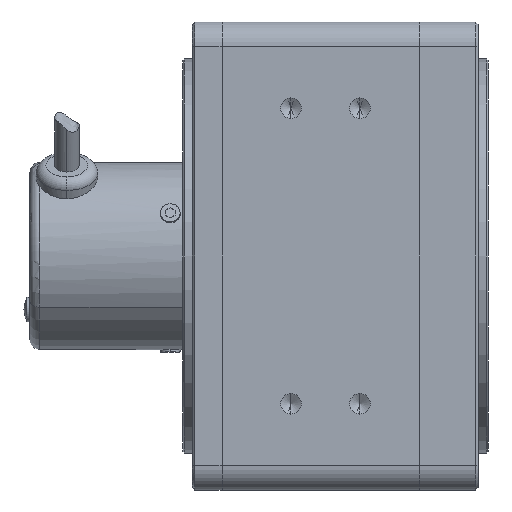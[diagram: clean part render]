
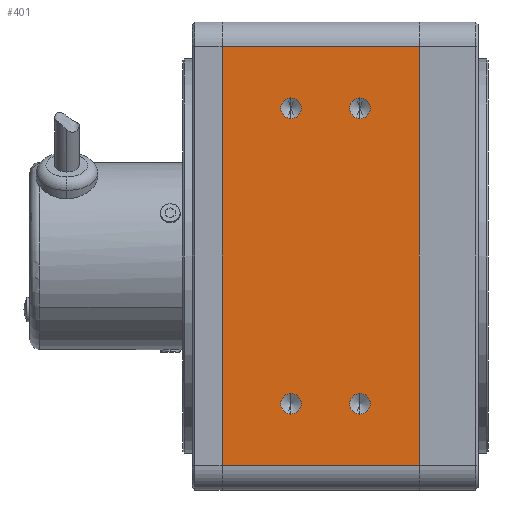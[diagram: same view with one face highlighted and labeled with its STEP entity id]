
A CAD part, left-side view. The second image highlights one B-rep face of the part: STEP entity #401.
In plain terms, the highlighted planar face has unit normal (-1, 0, 0).
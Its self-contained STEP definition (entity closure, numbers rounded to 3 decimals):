
#149=PLANE('',#3414);
#196=FACE_BOUND('',#890,.T.);
#197=FACE_BOUND('',#891,.T.);
#198=FACE_BOUND('',#892,.T.);
#199=FACE_BOUND('',#893,.T.);
#200=FACE_BOUND('',#894,.T.);
#401=ADVANCED_FACE('',(#196,#197,#198,#199,#200),#149,.F.);
#890=EDGE_LOOP('',(#1692,#1693));
#891=EDGE_LOOP('',(#1694,#1695));
#892=EDGE_LOOP('',(#1696,#1697));
#893=EDGE_LOOP('',(#1698,#1699));
#894=EDGE_LOOP('',(#1700,#1701,#1702,#1703));
#1183=LINE('',#5202,#1381);
#1191=LINE('',#5223,#1389);
#1192=LINE('',#5225,#1390);
#1193=LINE('',#5227,#1391);
#1381=VECTOR('',#4004,1.);
#1389=VECTOR('',#4026,1.);
#1390=VECTOR('',#4027,1.);
#1391=VECTOR('',#4028,1.);
#1692=ORIENTED_EDGE('',*,*,#2835,.F.);
#1693=ORIENTED_EDGE('',*,*,#2725,.F.);
#1694=ORIENTED_EDGE('',*,*,#2836,.F.);
#1695=ORIENTED_EDGE('',*,*,#2731,.F.);
#1696=ORIENTED_EDGE('',*,*,#2837,.F.);
#1697=ORIENTED_EDGE('',*,*,#2737,.F.);
#1698=ORIENTED_EDGE('',*,*,#2838,.F.);
#1699=ORIENTED_EDGE('',*,*,#2743,.F.);
#1700=ORIENTED_EDGE('',*,*,#2827,.T.);
#1701=ORIENTED_EDGE('',*,*,#2839,.T.);
#1702=ORIENTED_EDGE('',*,*,#2840,.F.);
#1703=ORIENTED_EDGE('',*,*,#2841,.T.);
#2439=VERTEX_POINT('',#4803);
#2440=VERTEX_POINT('',#4805);
#2444=VERTEX_POINT('',#4816);
#2445=VERTEX_POINT('',#4818);
#2449=VERTEX_POINT('',#4829);
#2450=VERTEX_POINT('',#4831);
#2454=VERTEX_POINT('',#4842);
#2455=VERTEX_POINT('',#4844);
#2510=VERTEX_POINT('',#5196);
#2513=VERTEX_POINT('',#5201);
#2520=VERTEX_POINT('',#5224);
#2521=VERTEX_POINT('',#5226);
#2725=EDGE_CURVE('',#2439,#2440,#3133,.T.);
#2731=EDGE_CURVE('',#2444,#2445,#3135,.T.);
#2737=EDGE_CURVE('',#2449,#2450,#3137,.T.);
#2743=EDGE_CURVE('',#2454,#2455,#3139,.T.);
#2827=EDGE_CURVE('',#2510,#2513,#1183,.T.);
#2835=EDGE_CURVE('',#2440,#2439,#3168,.T.);
#2836=EDGE_CURVE('',#2445,#2444,#3169,.T.);
#2837=EDGE_CURVE('',#2450,#2449,#3170,.T.);
#2838=EDGE_CURVE('',#2455,#2454,#3171,.T.);
#2839=EDGE_CURVE('',#2513,#2520,#1191,.T.);
#2840=EDGE_CURVE('',#2521,#2520,#1192,.T.);
#2841=EDGE_CURVE('',#2521,#2510,#1193,.T.);
#3133=CIRCLE('',#3348,2.1);
#3135=CIRCLE('',#3352,2.1);
#3137=CIRCLE('',#3356,2.1);
#3139=CIRCLE('',#3360,2.1);
#3168=CIRCLE('',#3410,2.1);
#3169=CIRCLE('',#3411,2.1);
#3170=CIRCLE('',#3412,2.1);
#3171=CIRCLE('',#3413,2.1);
#3348=AXIS2_PLACEMENT_3D('',#4804,#3825,#3826);
#3352=AXIS2_PLACEMENT_3D('',#4817,#3837,#3838);
#3356=AXIS2_PLACEMENT_3D('',#4830,#3849,#3850);
#3360=AXIS2_PLACEMENT_3D('',#4843,#3861,#3862);
#3410=AXIS2_PLACEMENT_3D('',#5219,#4018,#4019);
#3411=AXIS2_PLACEMENT_3D('',#5220,#4020,#4021);
#3412=AXIS2_PLACEMENT_3D('',#5221,#4022,#4023);
#3413=AXIS2_PLACEMENT_3D('',#5222,#4024,#4025);
#3414=AXIS2_PLACEMENT_3D('',#5228,#4029,#4030);
#3825=DIRECTION('',(-1.,0.,0.));
#3826=DIRECTION('',(0.,0.,1.));
#3837=DIRECTION('',(-1.,0.,0.));
#3838=DIRECTION('',(0.,0.,1.));
#3849=DIRECTION('',(-1.,0.,0.));
#3850=DIRECTION('',(0.,0.,1.));
#3861=DIRECTION('',(-1.,0.,0.));
#3862=DIRECTION('',(0.,0.,1.));
#4004=DIRECTION('',(0.,0.,1.));
#4018=DIRECTION('',(-1.,0.,0.));
#4019=DIRECTION('',(0.,0.,1.));
#4020=DIRECTION('',(-1.,0.,0.));
#4021=DIRECTION('',(0.,0.,1.));
#4022=DIRECTION('',(-1.,0.,0.));
#4023=DIRECTION('',(0.,0.,1.));
#4024=DIRECTION('',(-1.,0.,0.));
#4025=DIRECTION('',(0.,0.,1.));
#4026=DIRECTION('',(0.,1.,0.));
#4027=DIRECTION('',(0.,0.,1.));
#4028=DIRECTION('',(0.,-1.,0.));
#4029=DIRECTION('',(1.,0.,0.));
#4030=DIRECTION('',(0.,0.,1.));
#4803=CARTESIAN_POINT('',(-218.04,121.137,30.011));
#4804=CARTESIAN_POINT('',(-218.04,121.137,32.111));
#4805=CARTESIAN_POINT('',(-218.04,121.137,34.211));
#4816=CARTESIAN_POINT('',(-218.04,121.137,90.011));
#4817=CARTESIAN_POINT('',(-218.04,121.137,92.111));
#4818=CARTESIAN_POINT('',(-218.04,121.137,94.211));
#4829=CARTESIAN_POINT('',(-218.04,107.137,90.011));
#4830=CARTESIAN_POINT('',(-218.04,107.137,92.111));
#4831=CARTESIAN_POINT('',(-218.04,107.137,94.211));
#4842=CARTESIAN_POINT('',(-218.04,107.137,30.011));
#4843=CARTESIAN_POINT('',(-218.04,107.137,32.111));
#4844=CARTESIAN_POINT('',(-218.04,107.137,34.211));
#5196=CARTESIAN_POINT('',(-218.04,95.137,19.611));
#5201=CARTESIAN_POINT('',(-218.04,95.137,104.611));
#5202=CARTESIAN_POINT('',(-218.04,95.137,109.611));
#5219=CARTESIAN_POINT('',(-218.04,121.137,32.111));
#5220=CARTESIAN_POINT('',(-218.04,121.137,92.111));
#5221=CARTESIAN_POINT('',(-218.04,107.137,92.111));
#5222=CARTESIAN_POINT('',(-218.04,107.137,32.111));
#5223=CARTESIAN_POINT('',(-218.04,141.137,104.611));
#5224=CARTESIAN_POINT('',(-218.04,135.137,104.611));
#5225=CARTESIAN_POINT('',(-218.04,135.137,109.611));
#5226=CARTESIAN_POINT('',(-218.04,135.137,19.611));
#5227=CARTESIAN_POINT('',(-218.04,141.137,19.611));
#5228=CARTESIAN_POINT('',(-218.04,141.137,109.611));
